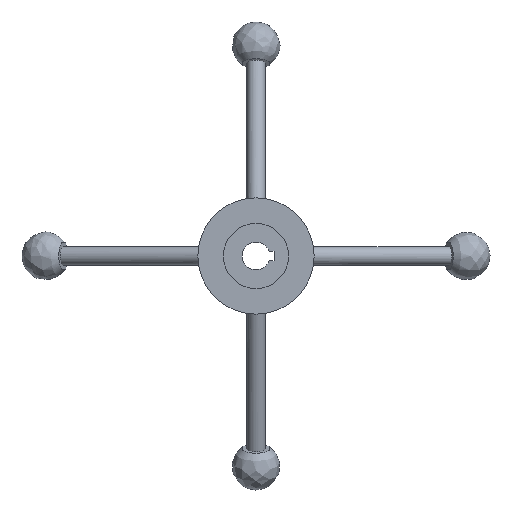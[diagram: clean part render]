
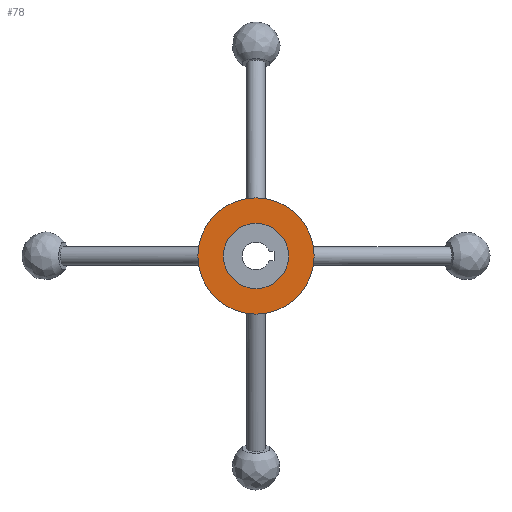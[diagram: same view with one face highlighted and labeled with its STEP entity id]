
A CAD part, front view. The second image highlights one B-rep face of the part: STEP entity #78.
In plain terms, the highlighted planar face has unit normal (0, -1, 0).
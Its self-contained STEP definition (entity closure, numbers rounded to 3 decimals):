
#78 = ADVANCED_FACE( '', ( #107, #108 ), #109, .F. );
#107 = FACE_BOUND( '', #173, .T. );
#108 = FACE_OUTER_BOUND( '', #174, .T. );
#109 = PLANE( '', #175 );
#173 = EDGE_LOOP( '', ( #384 ) );
#174 = EDGE_LOOP( '', ( #385 ) );
#175 = AXIS2_PLACEMENT_3D( '', #386, #387, #388 );
#384 = ORIENTED_EDGE( '', *, *, #489, .F. );
#385 = ORIENTED_EDGE( '', *, *, #490, .T. );
#386 = CARTESIAN_POINT( '', ( 25., 9., 0. ) );
#387 = DIRECTION( '', ( 0., 1., 0. ) );
#388 = DIRECTION( '', ( 0., 0., 1. ) );
#489 = EDGE_CURVE( '', #529, #529, #530, .T. );
#490 = EDGE_CURVE( '', #531, #531, #532, .T. );
#529 = VERTEX_POINT( '', #651 );
#530 = CIRCLE( '', #652, 14. );
#531 = VERTEX_POINT( '', #653 );
#532 = CIRCLE( '', #654, 25. );
#651 = CARTESIAN_POINT( '', ( 0., 9., -14. ) );
#652 = AXIS2_PLACEMENT_3D( '', #905, #906, #907 );
#653 = CARTESIAN_POINT( '', ( 0., 9., -25. ) );
#654 = AXIS2_PLACEMENT_3D( '', #908, #909, #910 );
#905 = CARTESIAN_POINT( '', ( 0., 9., 0. ) );
#906 = DIRECTION( '', ( 0., -1., 0. ) );
#907 = DIRECTION( '', ( 0., 0., -1. ) );
#908 = CARTESIAN_POINT( '', ( 0., 9., 0. ) );
#909 = DIRECTION( '', ( 0., -1., 0. ) );
#910 = DIRECTION( '', ( 0., 0., -1. ) );
